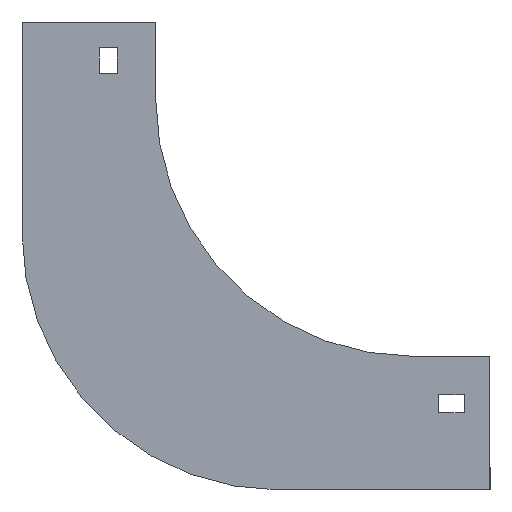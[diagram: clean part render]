
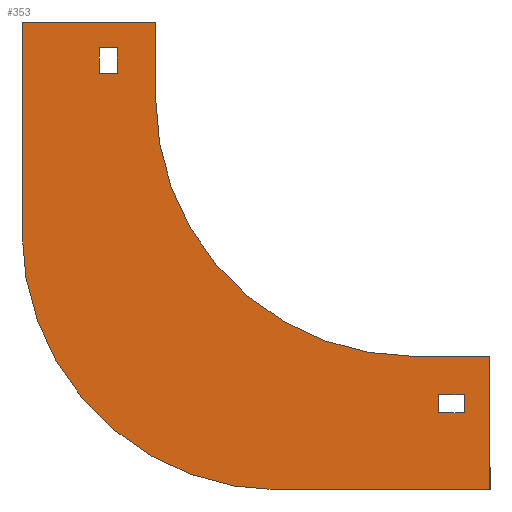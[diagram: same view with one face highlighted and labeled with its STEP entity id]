
A CAD part, left-side view. The second image highlights one B-rep face of the part: STEP entity #353.
In plain terms, the highlighted planar face has unit normal (-1, 0, 0).
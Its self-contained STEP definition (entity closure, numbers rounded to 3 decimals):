
#26 = CARTESIAN_POINT ( 'NONE',  ( -252., -130., -130. ) ) ;
#70 = DIRECTION ( 'NONE',  ( 0., 0., 1. ) ) ;
#74 = LINE ( 'NONE', #835, #101 ) ;
#83 = VERTEX_POINT ( 'NONE', #457 ) ;
#88 = DIRECTION ( 'NONE',  ( 0., 0., 1. ) ) ;
#95 = ORIENTED_EDGE ( 'NONE', *, *, #1021, .T. ) ;
#101 = VECTOR ( 'NONE', #1267, 1000. ) ;
#103 = VECTOR ( 'NONE', #1225, 1000. ) ;
#105 = EDGE_LOOP ( 'NONE', ( #232, #444, #1126, #435 ) ) ;
#125 = VERTEX_POINT ( 'NONE', #759 ) ;
#131 = DIRECTION ( 'NONE',  ( 0., 0., -1. ) ) ;
#132 = DIRECTION ( 'NONE',  ( 0., 0., -1. ) ) ;
#146 = EDGE_CURVE ( 'NONE', #1375, #981, #349, .T. ) ;
#150 = DIRECTION ( 'NONE',  ( 0., -1., 0. ) ) ;
#171 = EDGE_CURVE ( 'NONE', #501, #958, #1244, .T. ) ;
#175 = VECTOR ( 'NONE', #398, 1000. ) ;
#181 = CARTESIAN_POINT ( 'NONE',  ( -252., -100., -130. ) ) ;
#182 = DIRECTION ( 'NONE',  ( -1., 0., 0. ) ) ;
#187 = LINE ( 'NONE', #613, #739 ) ;
#191 = VERTEX_POINT ( 'NONE', #1117 ) ;
#192 = CARTESIAN_POINT ( 'NONE',  ( -252., -100., -130. ) ) ;
#200 = ORIENTED_EDGE ( 'NONE', *, *, #1123, .F. ) ;
#202 = VECTOR ( 'NONE', #132, 1000. ) ;
#204 = CARTESIAN_POINT ( 'NONE',  ( -252., -100., -30. ) ) ;
#217 = VECTOR ( 'NONE', #711, 1000. ) ;
#223 = LINE ( 'NONE', #837, #1026 ) ;
#232 = ORIENTED_EDGE ( 'NONE', *, *, #387, .F. ) ;
#239 = DIRECTION ( 'NONE',  ( 0., 1., 0. ) ) ;
#251 = LINE ( 'NONE', #26, #202 ) ;
#256 = EDGE_CURVE ( 'NONE', #541, #399, #1042, .T. ) ;
#280 = ORIENTED_EDGE ( 'NONE', *, *, #319, .T. ) ;
#282 = CARTESIAN_POINT ( 'NONE',  ( -252., 52., 0. ) ) ;
#288 = VERTEX_POINT ( 'NONE', #1137 ) ;
#291 = DIRECTION ( 'NONE',  ( 0., 1., 0. ) ) ;
#306 = CARTESIAN_POINT ( 'NONE',  ( -252., 15., -20. ) ) ;
#312 = VECTOR ( 'NONE', #620, 1000. ) ;
#319 = EDGE_CURVE ( 'NONE', #125, #83, #1382, .T. ) ;
#324 = VECTOR ( 'NONE', #150, 1000. ) ;
#340 = CARTESIAN_POINT ( 'NONE',  ( -252., 52., -82. ) ) ;
#342 = LINE ( 'NONE', #561, #1170 ) ;
#349 = LINE ( 'NONE', #779, #985 ) ;
#353 = ADVANCED_FACE ( 'NONE', ( #1362, #1146, #424 ), #1155, .T. ) ;
#371 = LINE ( 'NONE', #818, #175 ) ;
#384 = ORIENTED_EDGE ( 'NONE', *, *, #483, .F. ) ;
#387 = EDGE_CURVE ( 'NONE', #1085, #288, #74, .T. ) ;
#398 = DIRECTION ( 'NONE',  ( 0., 0., -1. ) ) ;
#399 = VERTEX_POINT ( 'NONE', #749 ) ;
#424 = FACE_BOUND ( 'NONE', #105, .T. ) ;
#435 = ORIENTED_EDGE ( 'NONE', *, *, #1160, .F. ) ;
#444 = ORIENTED_EDGE ( 'NONE', *, *, #1029, .F. ) ;
#457 = CARTESIAN_POINT ( 'NONE',  ( -252., 15., -10. ) ) ;
#483 = EDGE_CURVE ( 'NONE', #1289, #928, #521, .T. ) ;
#496 = EDGE_LOOP ( 'NONE', ( #1048, #949, #1116, #384, #579, #1151, #583, #200 ) ) ;
#501 = VERTEX_POINT ( 'NONE', #1372 ) ;
#507 = CARTESIAN_POINT ( 'NONE',  ( -252., -120., -145. ) ) ;
#521 = LINE ( 'NONE', #1254, #1338 ) ;
#528 = CARTESIAN_POINT ( 'NONE',  ( -252., -130., -182. ) ) ;
#536 = AXIS2_PLACEMENT_3D ( 'NONE', #1297, #1063, #88 ) ;
#541 = VERTEX_POINT ( 'NONE', #340 ) ;
#554 = EDGE_CURVE ( 'NONE', #872, #1252, #954, .T. ) ;
#561 = CARTESIAN_POINT ( 'NONE',  ( -252., -120., -152. ) ) ;
#563 = VERTEX_POINT ( 'NONE', #643 ) ;
#575 = CARTESIAN_POINT ( 'NONE',  ( -252., -120., -152. ) ) ;
#579 = ORIENTED_EDGE ( 'NONE', *, *, #953, .F. ) ;
#583 = ORIENTED_EDGE ( 'NONE', *, *, #554, .F. ) ;
#613 = CARTESIAN_POINT ( 'NONE',  ( -252., -110., -152. ) ) ;
#620 = DIRECTION ( 'NONE',  ( 0., -1., 0. ) ) ;
#627 = DIRECTION ( 'NONE',  ( 0., 0., 1. ) ) ;
#643 = CARTESIAN_POINT ( 'NONE',  ( -252., -130., -130. ) ) ;
#669 = CARTESIAN_POINT ( 'NONE',  ( -252., 22., -20. ) ) ;
#672 = EDGE_CURVE ( 'NONE', #928, #541, #1104, .T. ) ;
#684 = DIRECTION ( 'NONE',  ( 0., 0., 1. ) ) ;
#709 = CARTESIAN_POINT ( 'NONE',  ( -252., 52., -82. ) ) ;
#711 = DIRECTION ( 'NONE',  ( 0., -1., 0. ) ) ;
#739 = VECTOR ( 'NONE', #832, 1000. ) ;
#749 = CARTESIAN_POINT ( 'NONE',  ( -252., 52., 0. ) ) ;
#759 = CARTESIAN_POINT ( 'NONE',  ( -252., 22., -10. ) ) ;
#770 = ORIENTED_EDGE ( 'NONE', *, *, #862, .T. ) ;
#779 = CARTESIAN_POINT ( 'NONE',  ( -252., 22., -20. ) ) ;
#781 = CARTESIAN_POINT ( 'NONE',  ( -252., -48., -82. ) ) ;
#818 = CARTESIAN_POINT ( 'NONE',  ( -252., 0., 0. ) ) ;
#832 = DIRECTION ( 'NONE',  ( 0., 0., -1. ) ) ;
#835 = CARTESIAN_POINT ( 'NONE',  ( -252., -120., -145. ) ) ;
#837 = CARTESIAN_POINT ( 'NONE',  ( -252., 15., -10. ) ) ;
#854 = CARTESIAN_POINT ( 'NONE',  ( -252., -48., -182. ) ) ;
#862 = EDGE_CURVE ( 'NONE', #83, #1375, #223, .T. ) ;
#870 = EDGE_LOOP ( 'NONE', ( #280, #770, #975, #95 ) ) ;
#872 = VERTEX_POINT ( 'NONE', #939 ) ;
#876 = DIRECTION ( 'NONE',  ( 1., 0., 0. ) ) ;
#893 = EDGE_CURVE ( 'NONE', #1252, #563, #1263, .T. ) ;
#927 = CARTESIAN_POINT ( 'NONE',  ( -252., 22., -10. ) ) ;
#928 = VERTEX_POINT ( 'NONE', #854 ) ;
#939 = CARTESIAN_POINT ( 'NONE',  ( -252., 0., -30. ) ) ;
#949 = ORIENTED_EDGE ( 'NONE', *, *, #256, .F. ) ;
#953 = EDGE_CURVE ( 'NONE', #563, #1289, #251, .T. ) ;
#954 = CIRCLE ( 'NONE', #536, 100. ) ;
#958 = VERTEX_POINT ( 'NONE', #575 ) ;
#969 = DIRECTION ( 'NONE',  ( 0., 0., 1. ) ) ;
#975 = ORIENTED_EDGE ( 'NONE', *, *, #146, .T. ) ;
#981 = VERTEX_POINT ( 'NONE', #669 ) ;
#985 = VECTOR ( 'NONE', #239, 1000. ) ;
#1021 = EDGE_CURVE ( 'NONE', #981, #125, #1090, .T. ) ;
#1026 = VECTOR ( 'NONE', #1158, 1000. ) ;
#1029 = EDGE_CURVE ( 'NONE', #958, #1085, #342, .T. ) ;
#1042 = LINE ( 'NONE', #709, #1251 ) ;
#1048 = ORIENTED_EDGE ( 'NONE', *, *, #1200, .F. ) ;
#1063 = DIRECTION ( 'NONE',  ( -1., 0., 0. ) ) ;
#1085 = VERTEX_POINT ( 'NONE', #507 ) ;
#1090 = LINE ( 'NONE', #1114, #1102 ) ;
#1102 = VECTOR ( 'NONE', #969, 1000. ) ;
#1104 = CIRCLE ( 'NONE', #1307, 100. ) ;
#1106 = CARTESIAN_POINT ( 'NONE',  ( -252., -120., -152. ) ) ;
#1114 = CARTESIAN_POINT ( 'NONE',  ( -252., 22., -10. ) ) ;
#1116 = ORIENTED_EDGE ( 'NONE', *, *, #672, .F. ) ;
#1117 = CARTESIAN_POINT ( 'NONE',  ( -252., 0., 0. ) ) ;
#1123 = EDGE_CURVE ( 'NONE', #191, #872, #371, .T. ) ;
#1126 = ORIENTED_EDGE ( 'NONE', *, *, #171, .F. ) ;
#1137 = CARTESIAN_POINT ( 'NONE',  ( -252., -110., -145. ) ) ;
#1146 = FACE_OUTER_BOUND ( 'NONE', #496, .T. ) ;
#1151 = ORIENTED_EDGE ( 'NONE', *, *, #893, .F. ) ;
#1155 = PLANE ( 'NONE',  #1364 ) ;
#1158 = DIRECTION ( 'NONE',  ( 0., 0., -1. ) ) ;
#1160 = EDGE_CURVE ( 'NONE', #288, #501, #187, .T. ) ;
#1170 = VECTOR ( 'NONE', #684, 1000. ) ;
#1200 = EDGE_CURVE ( 'NONE', #399, #191, #1328, .T. ) ;
#1225 = DIRECTION ( 'NONE',  ( 0., -1., 0. ) ) ;
#1244 = LINE ( 'NONE', #1106, #324 ) ;
#1251 = VECTOR ( 'NONE', #70, 1000. ) ;
#1252 = VERTEX_POINT ( 'NONE', #181 ) ;
#1254 = CARTESIAN_POINT ( 'NONE',  ( -252., -130., -182. ) ) ;
#1263 = LINE ( 'NONE', #192, #312 ) ;
#1267 = DIRECTION ( 'NONE',  ( 0., 1., 0. ) ) ;
#1289 = VERTEX_POINT ( 'NONE', #528 ) ;
#1297 = CARTESIAN_POINT ( 'NONE',  ( -252., -100., -30. ) ) ;
#1307 = AXIS2_PLACEMENT_3D ( 'NONE', #781, #876, #131 ) ;
#1328 = LINE ( 'NONE', #282, #103 ) ;
#1338 = VECTOR ( 'NONE', #291, 1000. ) ;
#1362 = FACE_BOUND ( 'NONE', #870, .T. ) ;
#1364 = AXIS2_PLACEMENT_3D ( 'NONE', #204, #182, #627 ) ;
#1372 = CARTESIAN_POINT ( 'NONE',  ( -252., -110., -152. ) ) ;
#1375 = VERTEX_POINT ( 'NONE', #306 ) ;
#1382 = LINE ( 'NONE', #927, #217 ) ;
